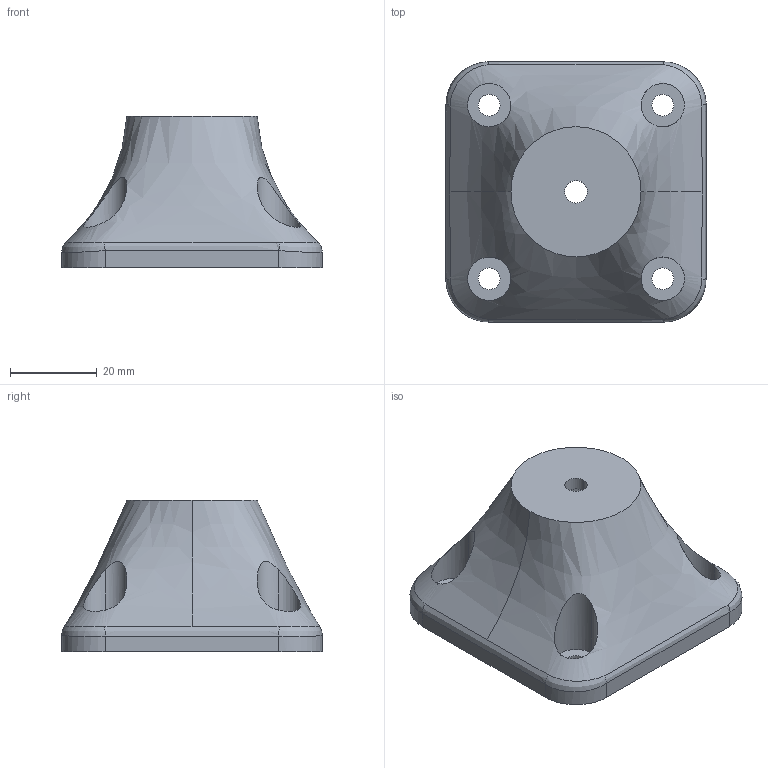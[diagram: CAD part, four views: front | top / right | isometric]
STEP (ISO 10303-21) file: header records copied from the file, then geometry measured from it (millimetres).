
FILE_DESCRIPTION (( 'STEP AP203' ), '1' );
FILE_NAME ('Mount.STEP', '2016-11-03T14:14:48', ( '' ), ( '' ), 'SwSTEP 2.0', 'SolidWorks 2015', '' );
FILE_SCHEMA (( 'CONFIG_CONTROL_DESIGN' ));
Length unit declared in the file: millimetre
Products named in the file (1): Mount
Bounding box: 60 x 60 x 35 mm (x, y, z)
Volume: 53151.2 mm3; surface area: 13885.7 mm2
Topology: 1 solids, 1 shells, 52 faces, 132 edges, 88 vertices
Faces by surface type: cylinder 24, plane 18, bspline 10
Entity records: 3507 total; most frequent: CARTESIAN_POINT 2211, ORIENTED_EDGE 264, DIRECTION 228, EDGE_CURVE 132, AXIS2_PLACEMENT_3D 89, VERTEX_POINT 88, EDGE_LOOP 68, ADVANCED_FACE 52
